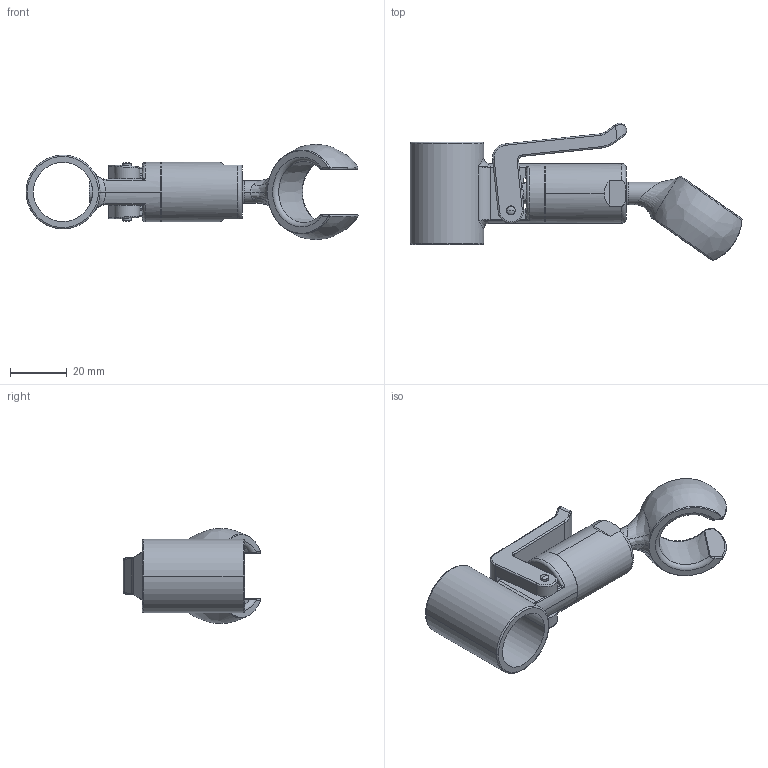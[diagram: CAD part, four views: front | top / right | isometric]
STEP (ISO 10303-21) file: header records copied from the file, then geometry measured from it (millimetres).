
FILE_DESCRIPTION((''),'2;1');
FILE_NAME('508351','2012-05-08T',('lff'),(''),'PRO/ENGINEER BY PARAMETRIC TECHNOLOGY CORPORATION, 2011080','PRO/ENGINEER BY PARAMETRIC TECHNOLOGY CORPORATION, 2011080','');
FILE_SCHEMA(('AUTOMOTIVE_DESIGN_CC2 { 1 2 10303 214 -1 1 5 2 }'));
Length unit declared in the file: millimetre
Products named in the file (1): 508351
Bounding box: 116.87 x 48.38 x 33.5 mm (x, y, z)
Volume: 29613.2 mm3; surface area: 20700 mm2
Topology: 4 solids, 4 shells, 249 faces, 587 edges, 352 vertices
Faces by surface type: cylinder 104, bspline 55, plane 52, torus 19, cone 13, sphere 6
Entity records: 11599 total; most frequent: CARTESIAN_POINT 5386, ORIENTED_EDGE 1166, DIRECTION 1053, EDGE_CURVE 583, AXIS2_PLACEMENT_3D 428, VERTEX_POINT 352, EDGE_LOOP 271, FACE_OUTER_BOUND 249
